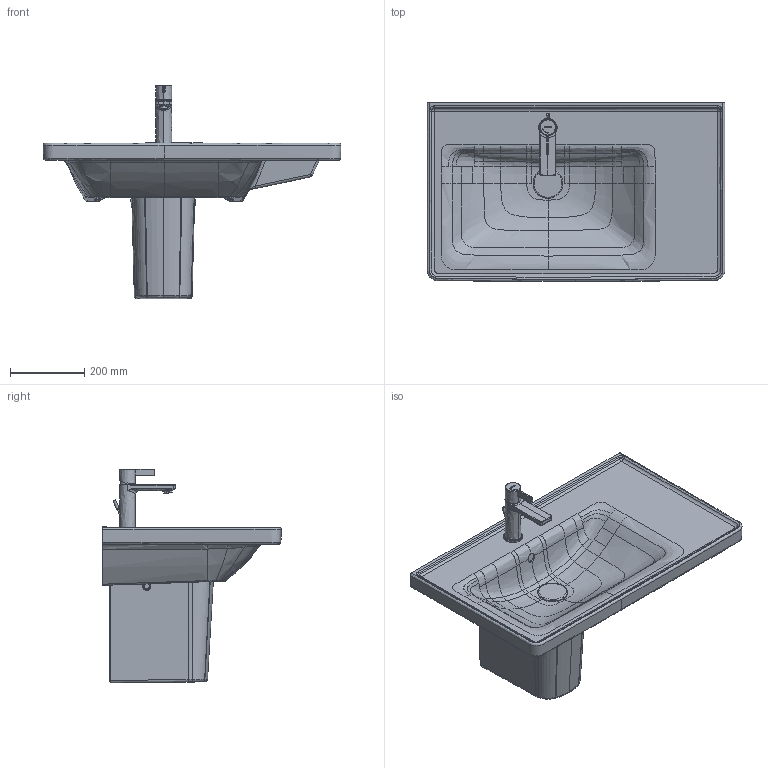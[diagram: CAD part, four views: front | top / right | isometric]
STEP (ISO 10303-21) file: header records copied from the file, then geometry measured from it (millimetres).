
FILE_DESCRIPTION(/* description */ (''),/* implementation_level */ '2;1');
FILE_NAME(/* name */ '236980_085843',/* time_stamp */ '2021-06-21T12:07:55+02:00',/* author */ (''),/* organization */ (''),/* preprocessor_version */ 'ST-DEVELOPER v15',/* originating_system */ '',/* authorisation */ '');
FILE_SCHEMA (('AUTOMOTIVE_DESIGN'));
Length unit declared in the file: millimetre
Products named in the file (1): Document
Bounding box: 800.17 x 480.01 x 574.79 mm (x, y, z)
Volume: 2978592.7 mm3; surface area: 1698494.6 mm2
Topology: 6 solids, 12 shells, 696 faces, 1711 edges, 1051 vertices
Faces by surface type: bspline 534, plane 162
Entity records: 94478 total; most frequent: CARTESIAN_POINT 83916, ORIENTED_EDGE 3378, EDGE_CURVE 1701, B_SPLINE_CURVE_WITH_KNOTS 1339, VERTEX_POINT 1051, EDGE_LOOP 742, ADVANCED_FACE 696, FACE_OUTER_BOUND 696
